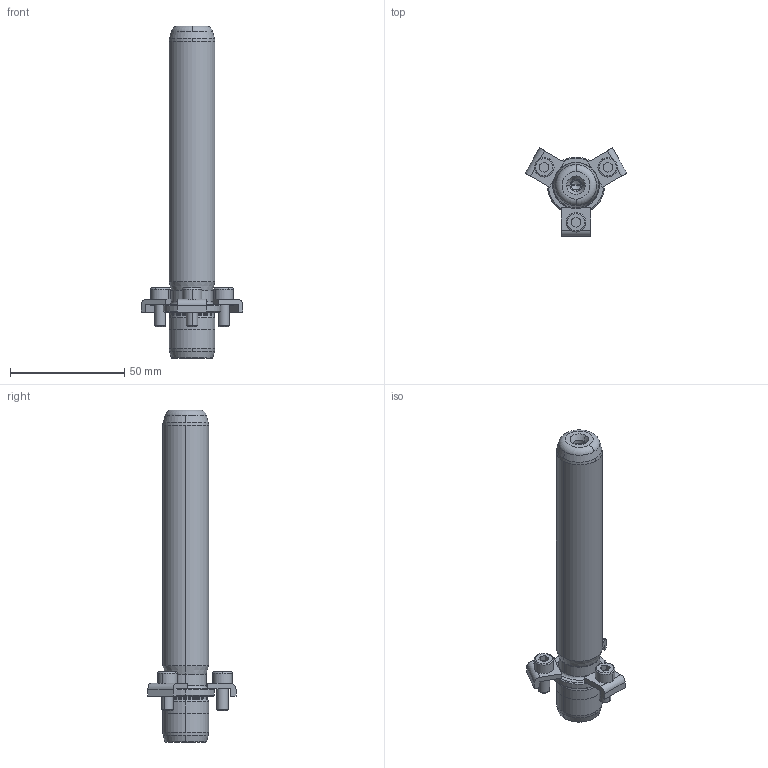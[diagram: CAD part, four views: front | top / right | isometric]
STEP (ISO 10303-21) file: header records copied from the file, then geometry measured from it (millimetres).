
FILE_DESCRIPTION((''),'2;1');
FILE_NAME('P21_020_125.stp','2008-12-19T11:23:37',(''),(''),'Mechanical Desktop 2009','Mechanical Desktop 2009',', , ');
FILE_SCHEMA(('CONFIG_CONTROL_DESIGN'));
Length unit declared in the file: millimetre
Products named in the file (2): Product; blmdl1
Assembly tree (1 placements, depth 2):
  Product
    blmdl1
Bounding box: 44.46 x 38.5 x 145 mm (x, y, z)
Volume: 47111.7 mm3; surface area: 13213.7 mm2
Topology: 7 solids, 7 shells, 169 faces, 417 edges, 269 vertices
Faces by surface type: plane 62, cylinder 47, cone 32, bspline 18, torus 10
Entity records: 5881 total; most frequent: CARTESIAN_POINT 1645, DIRECTION 936, ORIENTED_EDGE 826, EDGE_CURVE 413, AXIS2_PLACEMENT_3D 370, VERTEX_POINT 269, CIRCLE 217, VECTOR 196
